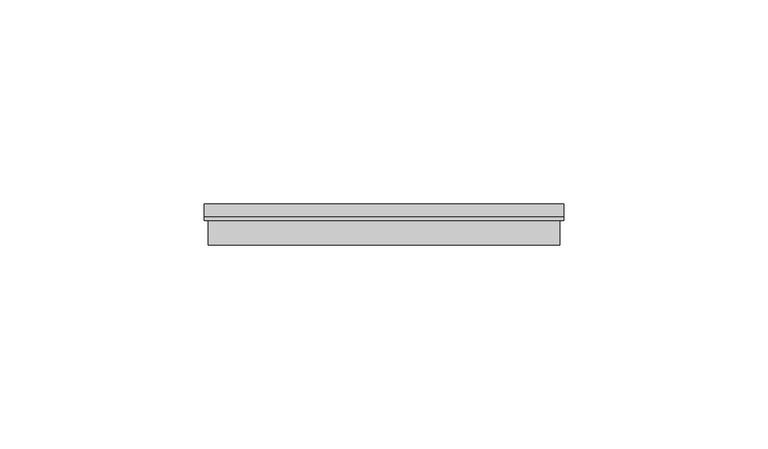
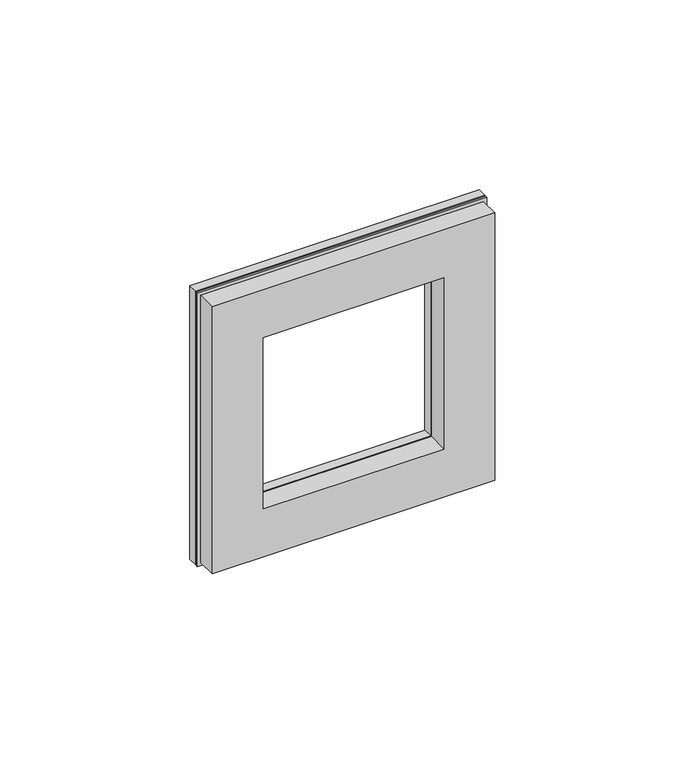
"""IFC4 building model written with IfcOpenShell, lengths in millimetres: proxy geometry, IEK_Brite_Рамка : x1_РУ-1-1-БрА металл алюм.."""

import ifcopenshell
import ifcopenshell.guid

model = None  # the IFC model being written
_history = None  # IfcOwnerHistory: only IFC2X3 demands one
_inside = {}  # id of a spatial element -> (the spatial element, [elements in it])
_under = {}  # id of a project, library or spatial element -> (it, [spatial elements below it])
_declared = {}  # id of a project -> (the project, [libraries it declares])
_typed = {}  # id of a type object -> (the type object, [elements of that type])
_made_of = {}  # id of a material, layer set ... -> (it, [elements and type objects made of it])


def new_model(schema):
    """Start an empty IFC model of exactly this schema.

    Asked for "IFC4X3", IfcOpenShell would pick the latest addendum, in which some entities
    have other attributes; the version numbers below select the first issue.
    IFC2X3 requires an IfcOwnerHistory on every rooted entity: one is made here for all.
    """
    global model, _history
    if schema == "IFC4X3":
        model = ifcopenshell.file(schema_version=(4, 3, 0, 0))
    else:
        model = ifcopenshell.file(schema=schema)
    _inside.clear()
    _under.clear()
    _declared.clear()
    _typed.clear()
    _made_of.clear()
    _history = None
    if model.schema == "IFC2X3":
        org = make("IfcOrganization", Name="unknown")
        user = make(
            "IfcPersonAndOrganization",
            ThePerson=make("IfcPerson", FamilyName="unknown"),
            TheOrganization=org,
        )
        app = make(
            "IfcApplication",
            ApplicationDeveloper=org,
            Version="unknown",
            ApplicationFullName="unknown",
            ApplicationIdentifier="unknown",
        )
        _history = make(
            "IfcOwnerHistory",
            OwningUser=user,
            OwningApplication=app,
            ChangeAction="ADDED",
            CreationDate=0,
        )
    return model


def make(cls, **values):
    """One entity of the class cls with the attributes given. An attribute that is None is left unset."""
    return model.create_entity(
        cls, **{name: value for name, value in values.items() if value is not None}
    )


def rooted(cls, **values):
    """An entity with a GlobalId (a new one), such as an element, a storey or a relation."""
    return make(cls, GlobalId=ifcopenshell.guid.new(), OwnerHistory=_history, **values)


def si_unit(unit_type, name, prefix=None):
    """IfcSIUnit, for example si_unit("LENGTHUNIT", "METRE", prefix="MILLI")."""
    return make("IfcSIUnit", UnitType=unit_type, Prefix=prefix, Name=name)


def assignment(units):
    """IfcUnitAssignment: the units of a project."""
    return None if units is None else make("IfcUnitAssignment", Units=units)


def point(xyz):
    """IfcCartesianPoint."""
    return None if xyz is None else make("IfcCartesianPoint", Coordinates=xyz)


def direction(xyz):
    """IfcDirection."""
    return None if xyz is None else make("IfcDirection", DirectionRatios=xyz)


def frame(location, z_axis=None, x_axis=None):
    """IfcAxis2Placement3D, a coordinate frame: its origin and axes. An axis left out is left unset."""
    return make(
        "IfcAxis2Placement3D",
        Location=point(location),
        Axis=direction(z_axis),
        RefDirection=direction(x_axis),
    )


def origin():
    """The frame at (0, 0, 0) with its axes left unset."""
    return frame((0.0, 0.0, 0.0))


def place(relative_to, where):
    """IfcLocalPlacement: puts the frame where relative to a parent placement (None: the world)."""
    return make(
        "IfcLocalPlacement", PlacementRelTo=relative_to, RelativePlacement=where
    )


def context(
    kind, dimensions, precision=None, world=None, true_north=None, identifier=None
):
    """IfcGeometricRepresentationContext, for example the 3D "Model" context."""
    return make(
        "IfcGeometricRepresentationContext",
        ContextIdentifier=identifier,
        ContextType=kind,
        CoordinateSpaceDimension=dimensions,
        Precision=precision,
        WorldCoordinateSystem=world,
        TrueNorth=true_north,
    )


def project(units=None, contexts=None):
    """IfcProject with its units and contexts."""
    return rooted(
        "IfcProject",
        Name="project",
        RepresentationContexts=contexts,
        UnitsInContext=assignment(units),
    )


def spatial(cls, under=None, at=None, **own):
    """A site, building, storey or space (cls), placed at a placement, below another one or the project."""
    s = rooted(cls, ObjectPlacement=at, **own)
    if under is not None:
        _under.setdefault(under.id(), (under, []))[1].append(s)
    return s


def polyline(points):
    """IfcPolyline through the points."""
    return make("IfcPolyline", Points=[point(p) for p in points])


def outline(outer, holes=None, kind="AREA"):
    """IfcArbitraryClosedProfileDef: a profile drawn as a closed curve; with holes, ...WithVoids."""
    if holes is None:
        return make("IfcArbitraryClosedProfileDef", ProfileType=kind, OuterCurve=outer)
    return make(
        "IfcArbitraryProfileDefWithVoids",
        ProfileType=kind,
        OuterCurve=outer,
        InnerCurves=holes,
    )


def extrude(swept, where, along, depth):
    """IfcExtrudedAreaSolid: the profile swept, set in the frame where, extruded along a direction by depth."""
    return make(
        "IfcExtrudedAreaSolid",
        SweptArea=swept,
        Position=where,
        ExtrudedDirection=direction(along),
        Depth=depth,
    )


def faces_of(points, faces, orient=None, outer=None):
    """IfcFace entities. A face is a list of loops; a loop is a list of indices into points, from 0.

    orient and outer hold one flag for each loop. By default every Orientation is true, the
    first loop of a face is its IfcFaceOuterBound and the others are IfcFaceBound.
    """
    made = []
    for i, loops in enumerate(faces):
        bounds = []
        for j, loop in enumerate(loops):
            is_outer = j == 0 if outer is None else outer[i][j]
            bounds.append(
                make(
                    "IfcFaceOuterBound" if is_outer else "IfcFaceBound",
                    Bound=make("IfcPolyLoop", Polygon=[points[k] for k in loop]),
                    Orientation=True if orient is None else orient[i][j],
                )
            )
        made.append(make("IfcFace", Bounds=bounds))
    return made


def faceted_brep(points, faces, orient=None, outer=None, voids=None):
    """IfcFacetedBrep: a solid bounded by flat faces; with voids (closed shells), ...WithVoids."""
    shared = [point(p) for p in points]
    hull = make("IfcClosedShell", CfsFaces=faces_of(shared, faces, orient, outer))
    if voids is None:
        return make("IfcFacetedBrep", Outer=hull)
    return make(
        "IfcFacetedBrepWithVoids",
        Outer=hull,
        Voids=[
            make(cls, CfsFaces=faces_of(shared, fs, o, b)) for cls, fs, o, b in voids
        ],
    )


def shape(context_of_items, identifier, shape_type, items):
    """IfcShapeRepresentation: the items that make up one representation, for example the "Body"."""
    return make(
        "IfcShapeRepresentation",
        ContextOfItems=context_of_items,
        RepresentationIdentifier=identifier,
        RepresentationType=shape_type,
        Items=items,
    )


def source(mapping_origin, context_of_items, identifier, shape_type, items):
    """IfcRepresentationMap: a shape defined once, which mapped items show again and again."""
    return make(
        "IfcRepresentationMap",
        MappingOrigin=mapping_origin,
        MappedRepresentation=shape(context_of_items, identifier, shape_type, items),
    )


def transform(
    local_origin,
    x_axis=None,
    y_axis=None,
    z_axis=None,
    scale=None,
    scale2=None,
    scale3=None,
    uniform=True,
):
    """IfcCartesianTransformationOperator3D, or its non-uniform kind. x_axis, y_axis, z_axis: its Axis1, 2, 3."""
    if uniform:
        return make(
            "IfcCartesianTransformationOperator3D",
            Axis1=direction(x_axis),
            Axis2=direction(y_axis),
            LocalOrigin=point(local_origin),
            Scale=scale,
            Axis3=direction(z_axis),
        )
    return make(
        "IfcCartesianTransformationOperator3DnonUniform",
        Axis1=direction(x_axis),
        Axis2=direction(y_axis),
        LocalOrigin=point(local_origin),
        Scale=scale,
        Axis3=direction(z_axis),
        Scale2=scale2,
        Scale3=scale3,
    )


def mapped(mapping_source, mapping_target):
    """IfcMappedItem: shows the shape of a source again, moved by a transform."""
    return make(
        "IfcMappedItem", MappingSource=mapping_source, MappingTarget=mapping_target
    )


def made_of(thing, what):
    """Note that an element or type object is made of a material, layer set ...; save() writes the relation."""
    if what is not None:
        _made_of.setdefault(what.id(), (what, []))[1].append(thing)
    return thing


def element(
    cls,
    number,
    at=None,
    inside=None,
    cuts=None,
    type_object=None,
    material=None,
    context=None,
    identifier="Body",
    shape_type=None,
    held_by="IfcProductDefinitionShape",
    body=None,
    shapes=None,
    **own,
):
    """One element of the class cls, such as IfcWall. Its Tag is "e" and its number.

    at: its placement. inside: the storey or other place that contains it. cuts: it is an
    opening in that element (IfcRelVoidsElement). A single representation is given by context,
    identifier, shape_type and body (its items); several are given by shapes. held_by: the class
    of the entity that holds the representations. save() writes the other relations.
    """
    e = rooted(cls, Tag="e%d" % number, ObjectPlacement=at, **own)
    if body is not None:
        shapes = [shape(context, identifier, shape_type, body)]
    if shapes is not None:
        e.Representation = make(held_by, Representations=shapes)
    if inside is not None:
        _inside.setdefault(inside.id(), (inside, []))[1].append(e)
    if cuts is not None:
        rooted(
            "IfcRelVoidsElement", RelatingBuildingElement=cuts, RelatedOpeningElement=e
        )
    if type_object is not None:
        _typed.setdefault(type_object.id(), (type_object, []))[1].append(e)
    return made_of(e, material)


def aggregate(whole, parts):
    """IfcRelAggregates: a whole, such as a stair, and the parts it consists of."""
    return rooted("IfcRelAggregates", RelatingObject=whole, RelatedObjects=parts)


def save(model, path):
    """Write the relations noted so far, then the file.

    IfcRelAggregates (storeys below a building ...), IfcRelContainedInSpatialStructure (elements
    in a storey), IfcRelDefinesByType, IfcRelAssociatesMaterial and IfcRelDeclares: one each for
    every whole, place, type object, material and project.
    """
    for whole, parts in _under.values():
        aggregate(whole, parts)
    for where, things in _inside.values():
        rooted(
            "IfcRelContainedInSpatialStructure",
            RelatedElements=things,
            RelatingStructure=where,
        )
    for kind, things in _typed.values():
        rooted("IfcRelDefinesByType", RelatedObjects=things, RelatingType=kind)
    for what, things in _made_of.values():
        rooted("IfcRelAssociatesMaterial", RelatedObjects=things, RelatingMaterial=what)
    for by, libraries in _declared.values():
        rooted("IfcRelDeclares", RelatingContext=by, RelatedDefinitions=libraries)
    model.write(path)


def electrical_fixtures_96edac8a(model_context):
    return source(origin(), model_context, "Body", "SolidModel", [
        extrude(outline(polyline([(44.0, -44.0), (-44.0, -44.0), (-44.0, 44.0), (44.0, 44.0), (44.0, -44.0)]), holes=[polyline([(-27.5, -27.5), (27.5, -27.5), (27.5, 27.5), (-27.5, 27.5), (-27.5, -27.5)])]), frame((0.0, 7.0, 0.0), z_axis=(0.0, 1.0, 0.0), x_axis=(0.0, 0.0, 1.0)), (0.0, 0.0, 1.0), 3.0),
        faceted_brep([(-44.0, 7.0, 44.0), (44.0, 7.0, 44.0), (44.0, 7.0, -44.0), (-44.0, 7.0, -44.0), (-27.5, 7.0, 27.5), (-27.5, 7.0, -27.5), (27.5, 7.0, -27.5), (27.5, 7.0, 27.5), (-43.0, 0.0, 43.0), (-43.0, 0.0, -43.0), (43.0, 0.0, -43.0), (43.0, 0.0, 43.0), (-27.5, 0.0, -27.5), (-27.5, 0.0, 27.5), (27.5, 0.0, 27.5), (27.5, 0.0, -27.5), (-43.0, 6.0, 43.0), (-43.0, 6.0, -43.0), (43.0, 6.0, -43.0), (43.0, 6.0, 43.0), (-44.0, 6.0, 44.0), (-44.0, 6.0, -44.0), (44.0, 6.0, -44.0), (44.0, 6.0, 44.0)], [[[0, 1, 2, 3], [4, 5, 6, 7]], [[8, 9, 10, 11], [12, 13, 14, 15]], [[9, 8, 16, 17]], [[10, 9, 17, 18]], [[11, 10, 18, 19]], [[8, 11, 19, 16]], [[20, 21, 22, 23], [17, 16, 19, 18]], [[21, 20, 0, 3]], [[22, 21, 3, 2]], [[23, 22, 2, 1]], [[20, 23, 1, 0]], [[4, 13, 12, 5]], [[5, 12, 15, 6]], [[6, 15, 14, 7]], [[13, 4, 7, 14]]]),
    ])


if __name__ == "__main__":
    model = new_model("IFC4")
    model_context = context("Model", 3, world=origin())
    ifc_project = project(units=[si_unit("LENGTHUNIT", "METRE", prefix="MILLI")], contexts=[model_context])
    site = spatial("IfcSite", under=ifc_project)
    building = spatial("IfcBuilding", under=site)
    placement = place(None, origin())
    electrical_fixtures_shape = electrical_fixtures_96edac8a(model_context)
    element("IfcBuildingElementProxy", 1, Name="IEK_Brite_Рамка : x1_РУ-1-1-БрА металл алюм.", ObjectType="IEK_Brite_Рамка : x1_РУ-1-1-БрА металл алюм.", at=placement, inside=building, context=model_context, shape_type="MappedRepresentation", body=[
        mapped(electrical_fixtures_shape, transform((0.0, 0.0, 0.0), x_axis=(1.0, 0.0, 0.0), y_axis=(0.0, 1.0, 0.0), z_axis=(0.0, 0.0, 1.0))),
    ])
    save(model, "model.ifc")
